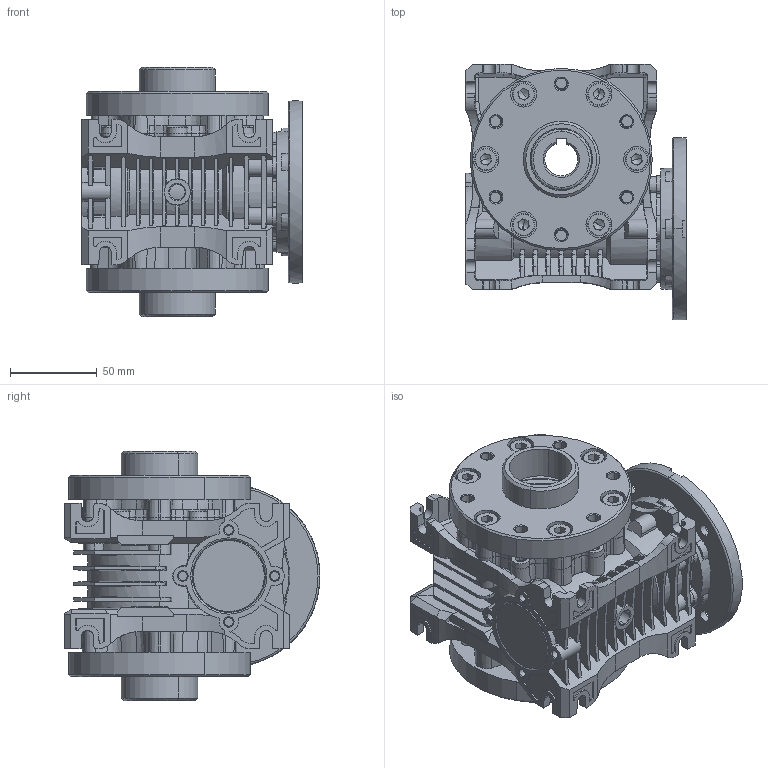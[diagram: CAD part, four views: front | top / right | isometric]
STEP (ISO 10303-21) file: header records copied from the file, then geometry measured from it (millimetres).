
FILE_DESCRIPTION (( 'STEP AP203' ), '1' );
FILE_NAME ('MRP-40_105_14_SO-1_3D.STEP', '2024-10-21T12:31:15', ( '' ), ( '' ), 'SwSTEP 2.0', 'SolidWorks 2022', '' );
FILE_SCHEMA (( 'CONFIG_CONTROL_DESIGN' ));
Length unit declared in the file: millimetre
Products named in the file (1): MRP-40_105_14_SO-1_3D
Bounding box: 127 x 147.52 x 144 mm (x, y, z)
Volume: 973994 mm3; surface area: 233845 mm2
Topology: 1 solids, 62 shells, 2935 faces, 7570 edges, 4804 vertices
Faces by surface type: plane 1163, cone 864, cylinder 492, bspline 222, torus 158, sphere 36
Entity records: 97895 total; most frequent: CARTESIAN_POINT 28302, ORIENTED_EDGE 15024, DIRECTION 14237, EDGE_CURVE 7512, AXIS2_PLACEMENT_3D 5436, VERTEX_POINT 4804, VECTOR 3365, LINE 3365
